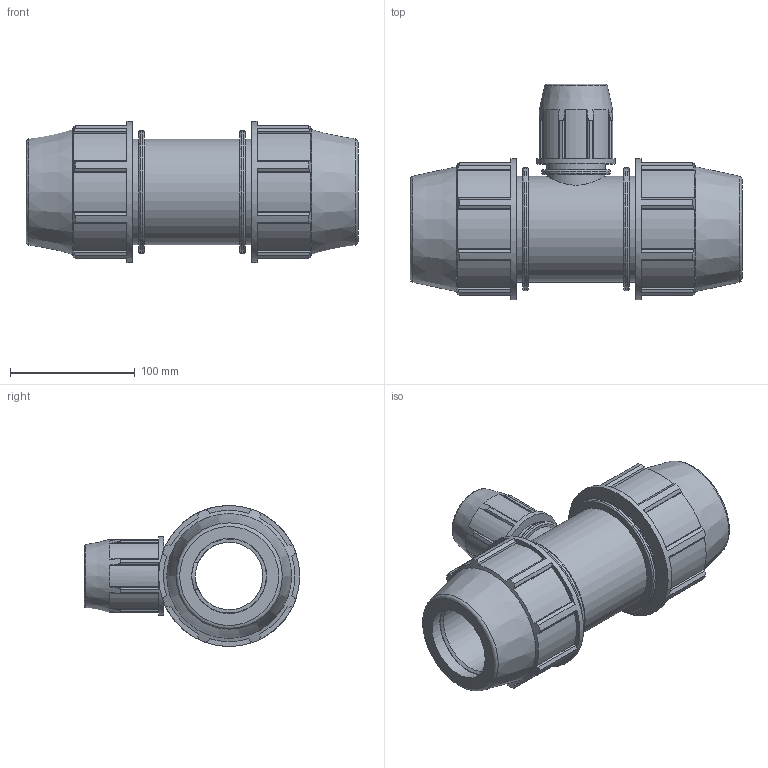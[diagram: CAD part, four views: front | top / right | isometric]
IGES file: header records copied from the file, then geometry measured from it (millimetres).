
Global section: file name: 0734M0020010.ipt; native system: Autodesk Inventor 2019; preprocessor: unknown; author: 12HКирилл; date: 20210826.124808; units: inch
Bounding box: 265.94 x 172.59 x 113.03 mm (x, y, z)
Volume: 1295497.9 mm3; surface area: 185253.5 mm2
Topology: 1 solids, 1 shells, 208 faces, 597 edges, 403 vertices
Faces by surface type: plane 138, cylinder 37, revolution 20, cone 13
Full cylindrical faces by diameter (mm): 47.244 x2, 54.803 x1, 62.992 x1, 84.772 x3, 98.336 x2, 113.03 x2
